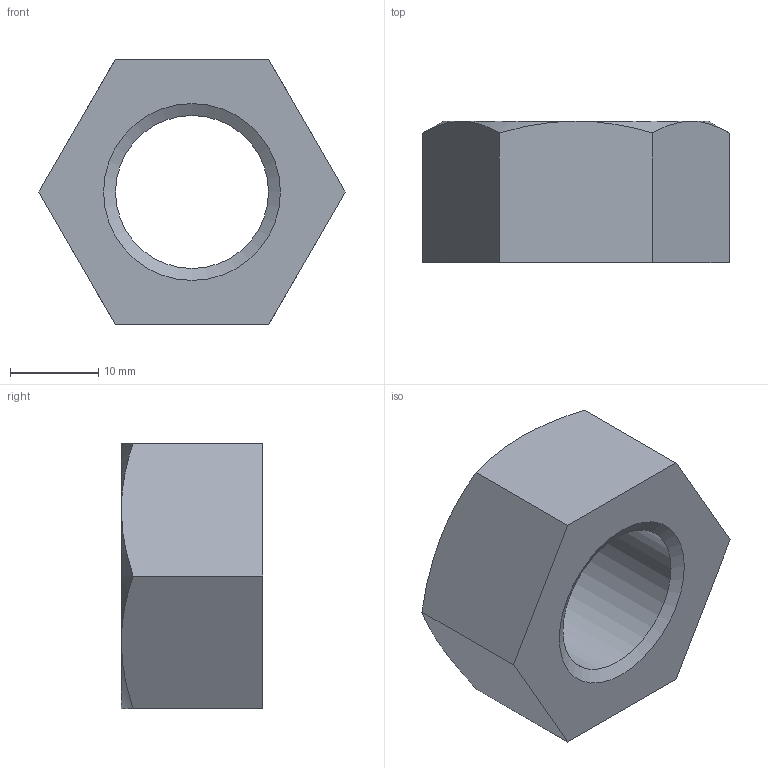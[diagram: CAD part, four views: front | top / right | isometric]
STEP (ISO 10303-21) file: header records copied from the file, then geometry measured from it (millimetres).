
FILE_DESCRIPTION(/* description */ (''),/* implementation_level */ '2;1');
FILE_NAME(/* name */ 'C:\Users\unitec\Desktop\ナット1種 中\M20.stp',/* time_stamp */ '2014-05-08T16:48:25+09:00',/* author */ ('unitec'),/* organization */ (''),/* preprocessor_version */ 'ST-DEVELOPER v15.2',/* originating_system */ 'Autodesk Inventor 2014',/* authorisation */ '');
FILE_SCHEMA (('AUTOMOTIVE_DESIGN { 1 0 10303 214 3 1 1 }'));
Length unit declared in the file: millimetre
Products named in the file (1): M20
Bounding box: 34.64 x 16 x 30 mm (x, y, z)
Volume: 8622.7 mm3; surface area: 3524.2 mm2
Topology: 1 solids, 1 shells, 17 faces, 37 edges, 22 vertices
Faces by surface type: cone 8, plane 8, cylinder 1
Full cylindrical faces by diameter (mm): 17.294 x1
Entity records: 455 total; most frequent: CARTESIAN_POINT 98, ORIENTED_EDGE 68, DIRECTION 68, EDGE_CURVE 34, AXIS2_PLACEMENT_3D 28, EDGE_LOOP 22, VERTEX_POINT 22, ADVANCED_FACE 17
